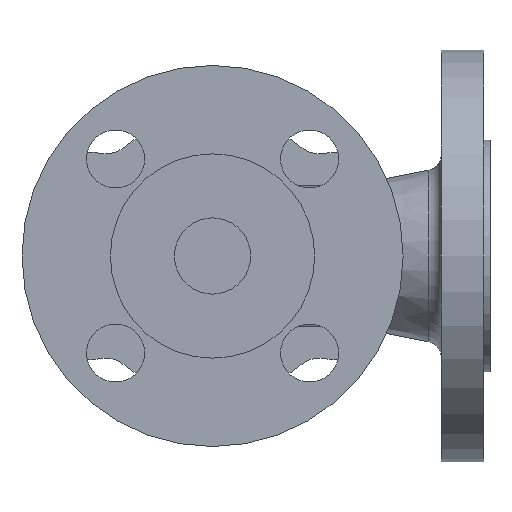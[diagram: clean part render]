
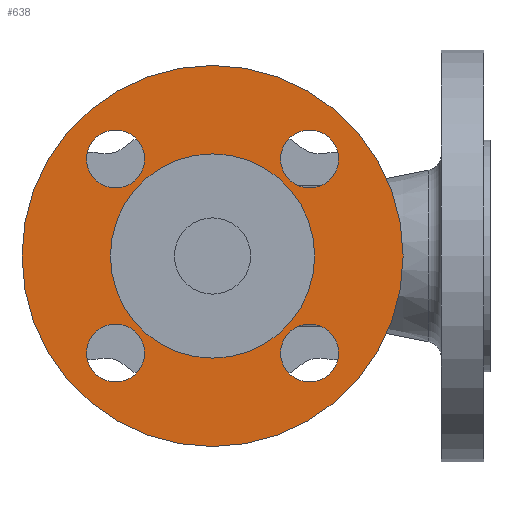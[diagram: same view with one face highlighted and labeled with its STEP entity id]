
A CAD part, front view. The second image highlights one B-rep face of the part: STEP entity #638.
In plain terms, the highlighted planar face has unit normal (0, -1, 0).
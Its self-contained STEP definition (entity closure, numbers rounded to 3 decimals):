
#188 = ORIENTED_EDGE ( 'NONE', *, *, #670, .T. ) ;
#207 = AXIS2_PLACEMENT_3D ( 'NONE', #818, #2632, #3947 ) ;
#256 = AXIS2_PLACEMENT_3D ( 'NONE', #2838, #1908, #1976 ) ;
#270 = FACE_BOUND ( 'NONE', #2203, .T. ) ;
#286 = EDGE_CURVE ( 'NONE', #4586, #2892, #5436, .T. ) ;
#313 = DIRECTION ( 'NONE',  ( 0., -1., 0. ) ) ;
#320 = AXIS2_PLACEMENT_3D ( 'NONE', #4072, #924, #5873 ) ;
#377 = AXIS2_PLACEMENT_3D ( 'NONE', #2158, #4680, #1218 ) ;
#397 = DIRECTION ( 'NONE',  ( -1., 0., 0. ) ) ;
#464 = ORIENTED_EDGE ( 'NONE', *, *, #5651, .F. ) ;
#475 = CIRCLE ( 'NONE', #207, 9.5 ) ;
#612 = CIRCLE ( 'NONE', #2120, 9.5 ) ;
#638 = ADVANCED_FACE ( 'NONE', ( #2102, #4343, #2527, #270, #5339, #2878 ), #3474, .T. ) ;
#670 = EDGE_CURVE ( 'NONE', #4288, #1183, #3606, .T. ) ;
#732 = DIRECTION ( 'NONE',  ( 0., 0., 1. ) ) ;
#766 = DIRECTION ( 'NONE',  ( 0., 0., 1. ) ) ;
#810 = CARTESIAN_POINT ( 'NONE',  ( 0., -86., 0. ) ) ;
#818 = CARTESIAN_POINT ( 'NONE',  ( -31.82, -86., -31.82 ) ) ;
#856 = ORIENTED_EDGE ( 'NONE', *, *, #3064, .F. ) ;
#861 = CIRCLE ( 'NONE', #5878, 9.5 ) ;
#873 = CIRCLE ( 'NONE', #5156, 62.5 ) ;
#924 = DIRECTION ( 'NONE',  ( 0., -1., 0. ) ) ;
#1099 = ORIENTED_EDGE ( 'NONE', *, *, #1795, .F. ) ;
#1105 = CIRCLE ( 'NONE', #256, 9.5 ) ;
#1125 = EDGE_LOOP ( 'NONE', ( #5828, #856 ) ) ;
#1143 = CARTESIAN_POINT ( 'NONE',  ( 31.82, -86., 41.32 ) ) ;
#1183 = VERTEX_POINT ( 'NONE', #2522 ) ;
#1218 = DIRECTION ( 'NONE',  ( 0., 0., -1. ) ) ;
#1237 = CARTESIAN_POINT ( 'NONE',  ( 31.82, -86., -41.32 ) ) ;
#1270 = CARTESIAN_POINT ( 'NONE',  ( 31.82, -86., -31.82 ) ) ;
#1301 = CARTESIAN_POINT ( 'NONE',  ( -31.82, -86., -22.32 ) ) ;
#1402 = ORIENTED_EDGE ( 'NONE', *, *, #3536, .F. ) ;
#1431 = VERTEX_POINT ( 'NONE', #4632 ) ;
#1687 = CARTESIAN_POINT ( 'NONE',  ( 0., -86., 0. ) ) ;
#1762 = AXIS2_PLACEMENT_3D ( 'NONE', #5470, #4552, #3176 ) ;
#1795 = EDGE_CURVE ( 'NONE', #3142, #2422, #2391, .T. ) ;
#1908 = DIRECTION ( 'NONE',  ( 0., -1., 0. ) ) ;
#1976 = DIRECTION ( 'NONE',  ( 1., 0., 0. ) ) ;
#2102 = FACE_BOUND ( 'NONE', #3134, .T. ) ;
#2120 = AXIS2_PLACEMENT_3D ( 'NONE', #2302, #2245, #397 ) ;
#2133 = AXIS2_PLACEMENT_3D ( 'NONE', #3405, #2854, #5222 ) ;
#2158 = CARTESIAN_POINT ( 'NONE',  ( -33.5, -86., 0. ) ) ;
#2203 = EDGE_LOOP ( 'NONE', ( #2781, #1099 ) ) ;
#2245 = DIRECTION ( 'NONE',  ( 0., -1., 0. ) ) ;
#2302 = CARTESIAN_POINT ( 'NONE',  ( 31.82, -86., 31.82 ) ) ;
#2349 = EDGE_CURVE ( 'NONE', #4565, #5583, #861, .T. ) ;
#2391 = CIRCLE ( 'NONE', #3061, 9.5 ) ;
#2422 = VERTEX_POINT ( 'NONE', #4001 ) ;
#2430 = EDGE_CURVE ( 'NONE', #1431, #5875, #475, .T. ) ;
#2522 = CARTESIAN_POINT ( 'NONE',  ( 0., -86., -33.5 ) ) ;
#2527 = FACE_BOUND ( 'NONE', #1125, .T. ) ;
#2560 = CARTESIAN_POINT ( 'NONE',  ( 31.82, -86., -22.32 ) ) ;
#2596 = ORIENTED_EDGE ( 'NONE', *, *, #286, .F. ) ;
#2632 = DIRECTION ( 'NONE',  ( 0., -1., 0. ) ) ;
#2781 = ORIENTED_EDGE ( 'NONE', *, *, #3983, .F. ) ;
#2838 = CARTESIAN_POINT ( 'NONE',  ( -31.82, -86., -31.82 ) ) ;
#2854 = DIRECTION ( 'NONE',  ( 0., -1., 0. ) ) ;
#2870 = AXIS2_PLACEMENT_3D ( 'NONE', #1687, #3896, #5704 ) ;
#2872 = ORIENTED_EDGE ( 'NONE', *, *, #2349, .F. ) ;
#2878 = FACE_OUTER_BOUND ( 'NONE', #5187, .T. ) ;
#2892 = VERTEX_POINT ( 'NONE', #3451 ) ;
#2917 = CIRCLE ( 'NONE', #2133, 9.5 ) ;
#3061 = AXIS2_PLACEMENT_3D ( 'NONE', #5759, #4342, #5256 ) ;
#3064 = EDGE_CURVE ( 'NONE', #5875, #1431, #1105, .T. ) ;
#3104 = DIRECTION ( 'NONE',  ( 0., 0., 1. ) ) ;
#3134 = EDGE_LOOP ( 'NONE', ( #5422, #2596 ) ) ;
#3142 = VERTEX_POINT ( 'NONE', #4419 ) ;
#3176 = DIRECTION ( 'NONE',  ( 0., 0., 1. ) ) ;
#3201 = ORIENTED_EDGE ( 'NONE', *, *, #5036, .F. ) ;
#3274 = AXIS2_PLACEMENT_3D ( 'NONE', #1270, #5758, #4894 ) ;
#3291 = EDGE_CURVE ( 'NONE', #2892, #4586, #612, .T. ) ;
#3405 = CARTESIAN_POINT ( 'NONE',  ( -31.82, -86., 31.82 ) ) ;
#3451 = CARTESIAN_POINT ( 'NONE',  ( 31.82, -86., 22.32 ) ) ;
#3474 = PLANE ( 'NONE',  #377 ) ;
#3520 = CARTESIAN_POINT ( 'NONE',  ( 0., -86., 62.5 ) ) ;
#3536 = EDGE_CURVE ( 'NONE', #5619, #3976, #5810, .T. ) ;
#3606 = CIRCLE ( 'NONE', #2870, 33.5 ) ;
#3841 = AXIS2_PLACEMENT_3D ( 'NONE', #810, #5769, #732 ) ;
#3893 = CARTESIAN_POINT ( 'NONE',  ( 0., -86., 0. ) ) ;
#3896 = DIRECTION ( 'NONE',  ( 0., 1., 0. ) ) ;
#3947 = DIRECTION ( 'NONE',  ( 1., 0., 0. ) ) ;
#3976 = VERTEX_POINT ( 'NONE', #4247 ) ;
#3983 = EDGE_CURVE ( 'NONE', #2422, #3142, #2917, .T. ) ;
#4001 = CARTESIAN_POINT ( 'NONE',  ( -31.82, -86., 22.32 ) ) ;
#4026 = CARTESIAN_POINT ( 'NONE',  ( 0., -86., 33.5 ) ) ;
#4072 = CARTESIAN_POINT ( 'NONE',  ( 31.82, -86., 31.82 ) ) ;
#4247 = CARTESIAN_POINT ( 'NONE',  ( 0., -86., -62.5 ) ) ;
#4288 = VERTEX_POINT ( 'NONE', #4026 ) ;
#4290 = EDGE_LOOP ( 'NONE', ( #3201, #2872 ) ) ;
#4335 = CIRCLE ( 'NONE', #1762, 33.5 ) ;
#4342 = DIRECTION ( 'NONE',  ( 0., -1., 0. ) ) ;
#4343 = FACE_BOUND ( 'NONE', #4290, .T. ) ;
#4419 = CARTESIAN_POINT ( 'NONE',  ( -31.82, -86., 41.32 ) ) ;
#4552 = DIRECTION ( 'NONE',  ( 0., 1., 0. ) ) ;
#4565 = VERTEX_POINT ( 'NONE', #2560 ) ;
#4586 = VERTEX_POINT ( 'NONE', #1143 ) ;
#4632 = CARTESIAN_POINT ( 'NONE',  ( -31.82, -86., -41.32 ) ) ;
#4680 = DIRECTION ( 'NONE',  ( 0., -1., 0. ) ) ;
#4723 = EDGE_CURVE ( 'NONE', #1183, #4288, #4335, .T. ) ;
#4894 = DIRECTION ( 'NONE',  ( 0., 0., 1. ) ) ;
#5036 = EDGE_CURVE ( 'NONE', #5583, #4565, #5356, .T. ) ;
#5156 = AXIS2_PLACEMENT_3D ( 'NONE', #3893, #5253, #766 ) ;
#5187 = EDGE_LOOP ( 'NONE', ( #1402, #464 ) ) ;
#5222 = DIRECTION ( 'NONE',  ( 0., 0., -1. ) ) ;
#5253 = DIRECTION ( 'NONE',  ( 0., 1., 0. ) ) ;
#5256 = DIRECTION ( 'NONE',  ( 0., 0., -1. ) ) ;
#5339 = FACE_BOUND ( 'NONE', #5801, .T. ) ;
#5356 = CIRCLE ( 'NONE', #3274, 9.5 ) ;
#5414 = CARTESIAN_POINT ( 'NONE',  ( 31.82, -86., -31.82 ) ) ;
#5422 = ORIENTED_EDGE ( 'NONE', *, *, #3291, .F. ) ;
#5436 = CIRCLE ( 'NONE', #320, 9.5 ) ;
#5470 = CARTESIAN_POINT ( 'NONE',  ( 0., -86., 0. ) ) ;
#5583 = VERTEX_POINT ( 'NONE', #1237 ) ;
#5619 = VERTEX_POINT ( 'NONE', #3520 ) ;
#5648 = ORIENTED_EDGE ( 'NONE', *, *, #4723, .T. ) ;
#5651 = EDGE_CURVE ( 'NONE', #3976, #5619, #873, .T. ) ;
#5704 = DIRECTION ( 'NONE',  ( 0., 0., 1. ) ) ;
#5758 = DIRECTION ( 'NONE',  ( 0., -1., 0. ) ) ;
#5759 = CARTESIAN_POINT ( 'NONE',  ( -31.82, -86., 31.82 ) ) ;
#5769 = DIRECTION ( 'NONE',  ( 0., 1., 0. ) ) ;
#5801 = EDGE_LOOP ( 'NONE', ( #188, #5648 ) ) ;
#5810 = CIRCLE ( 'NONE', #3841, 62.5 ) ;
#5828 = ORIENTED_EDGE ( 'NONE', *, *, #2430, .F. ) ;
#5873 = DIRECTION ( 'NONE',  ( -1., 0., 0. ) ) ;
#5875 = VERTEX_POINT ( 'NONE', #1301 ) ;
#5878 = AXIS2_PLACEMENT_3D ( 'NONE', #5414, #313, #3104 ) ;
